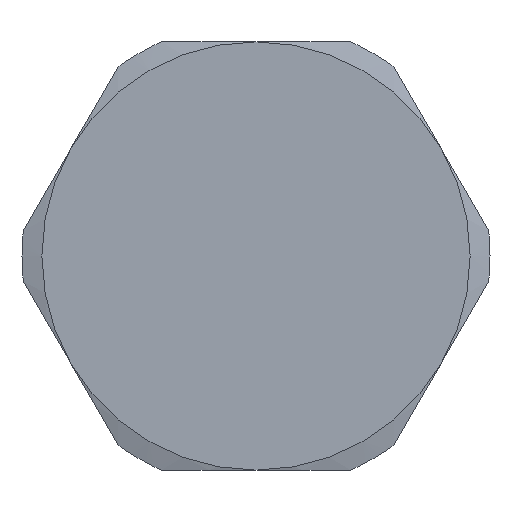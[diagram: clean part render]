
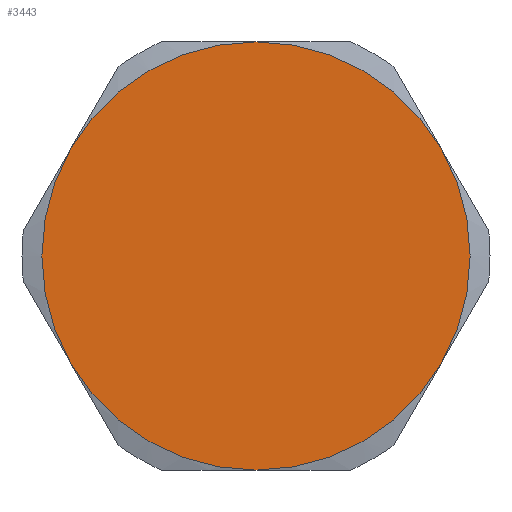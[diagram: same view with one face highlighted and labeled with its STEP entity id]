
A CAD part, left-side view. The second image highlights one B-rep face of the part: STEP entity #3443.
In plain terms, the highlighted planar face has unit normal (-1, 0, 0).
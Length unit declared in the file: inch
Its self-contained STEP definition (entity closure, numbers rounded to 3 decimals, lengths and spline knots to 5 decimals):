
#2931=CARTESIAN_POINT('',(-0.219,-0.43301,0.25));
#2932=VERTEX_POINT('',#2931);
#2956=CARTESIAN_POINT('',(-0.219,0.0,0.5));
#2957=VERTEX_POINT('',#2956);
#2971=CARTESIAN_POINT('',(-0.219,0.0,0.));
#2972=DIRECTION('',(-1.0,0.0,0.0));
#2973=DIRECTION('',(0.0,0.0,1.0));
#2974=AXIS2_PLACEMENT_3D('',#2971,#2972,#2973);
#2975=CIRCLE('',#2974,0.5);
#2976=EDGE_CURVE('',#2932,#2957,#2975,.T.);
#2986=CARTESIAN_POINT('',(-0.219,-0.43301,-0.25));
#2987=VERTEX_POINT('',#2986);
#3024=CARTESIAN_POINT('',(-0.219,0.0,0.));
#3025=DIRECTION('',(-1.0,0.0,0.0));
#3026=DIRECTION('',(0.0,0.0,1.0));
#3027=AXIS2_PLACEMENT_3D('',#3024,#3025,#3026);
#3028=CIRCLE('',#3027,0.5);
#3029=EDGE_CURVE('',#2987,#2932,#3028,.T.);
#3039=CARTESIAN_POINT('',(-0.219,0.0,-0.5));
#3040=VERTEX_POINT('',#3039);
#3077=CARTESIAN_POINT('',(-0.219,0.0,0.));
#3078=DIRECTION('',(-1.0,0.0,0.0));
#3079=DIRECTION('',(0.0,0.0,1.0));
#3080=AXIS2_PLACEMENT_3D('',#3077,#3078,#3079);
#3081=CIRCLE('',#3080,0.5);
#3082=EDGE_CURVE('',#3040,#2987,#3081,.T.);
#3107=CARTESIAN_POINT('',(-0.219,0.43301,-0.25));
#3108=VERTEX_POINT('',#3107);
#3109=CARTESIAN_POINT('',(-0.219,0.0,0.));
#3110=DIRECTION('',(-1.0,0.0,0.0));
#3111=DIRECTION('',(0.0,0.0,1.0));
#3112=AXIS2_PLACEMENT_3D('',#3109,#3110,#3111);
#3113=CIRCLE('',#3112,0.5);
#3114=EDGE_CURVE('',#3108,#3040,#3113,.T.);
#3160=CARTESIAN_POINT('',(-0.219,0.43301,0.25));
#3161=VERTEX_POINT('',#3160);
#3162=CARTESIAN_POINT('',(-0.219,0.0,0.));
#3163=DIRECTION('',(-1.0,0.0,0.0));
#3164=DIRECTION('',(0.0,0.0,1.0));
#3165=AXIS2_PLACEMENT_3D('',#3162,#3163,#3164);
#3166=CIRCLE('',#3165,0.5);
#3167=EDGE_CURVE('',#3161,#3108,#3166,.T.);
#3213=CARTESIAN_POINT('',(-0.219,0.0,0.));
#3214=DIRECTION('',(-1.0,0.0,0.0));
#3215=DIRECTION('',(0.0,0.0,1.0));
#3216=AXIS2_PLACEMENT_3D('',#3213,#3214,#3215);
#3217=CIRCLE('',#3216,0.5);
#3218=EDGE_CURVE('',#2957,#3161,#3217,.T.);
#3430=CARTESIAN_POINT('',(-0.219,0.01994,0.));
#3431=DIRECTION('',(1.0,0.0,0.0));
#3432=DIRECTION('',(0.0,0.0,-1.0));
#3433=AXIS2_PLACEMENT_3D('',#3430,#3431,#3432);
#3434=PLANE('',#3433);
#3435=ORIENTED_EDGE('',*,*,#3218,.T.);
#3436=ORIENTED_EDGE('',*,*,#3167,.T.);
#3437=ORIENTED_EDGE('',*,*,#3114,.T.);
#3438=ORIENTED_EDGE('',*,*,#3082,.T.);
#3439=ORIENTED_EDGE('',*,*,#3029,.T.);
#3440=ORIENTED_EDGE('',*,*,#2976,.T.);
#3441=EDGE_LOOP('',(#3435,#3436,#3437,#3438,#3439,#3440));
#3442=FACE_OUTER_BOUND('',#3441,.T.);
#3443=ADVANCED_FACE('',(#3442),#3434,.F.);
